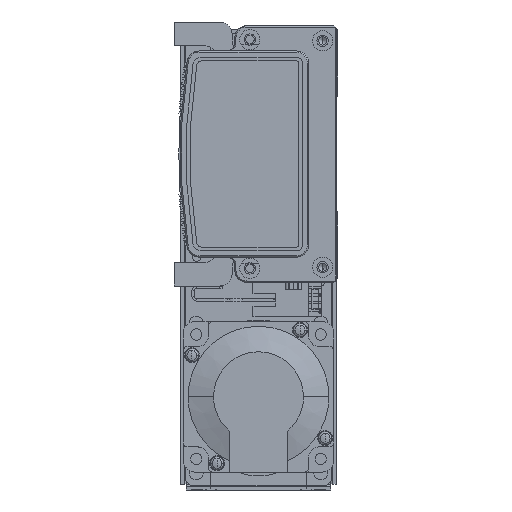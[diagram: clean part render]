
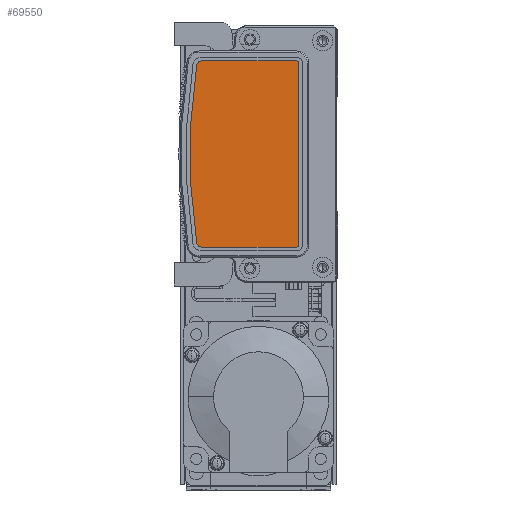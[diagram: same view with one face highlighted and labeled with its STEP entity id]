
A CAD part, left-side view. The second image highlights one B-rep face of the part: STEP entity #69550.
In plain terms, the highlighted planar face has unit normal (-1, 0, 0).
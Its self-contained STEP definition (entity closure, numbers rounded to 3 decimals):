
#120 = CARTESIAN_POINT ( 'NONE',  ( -2., -223.336, 0. ) ) ;
#2007 = CARTESIAN_POINT ( 'NONE',  ( -2., 5.582, -35.305 ) ) ;
#3809 = DIRECTION ( 'NONE',  ( 0., 0., 1. ) ) ;
#4285 = CARTESIAN_POINT ( 'NONE',  ( -2., -34., 36. ) ) ;
#4717 = ORIENTED_EDGE ( 'NONE', *, *, #57705, .T. ) ;
#5496 = VERTEX_POINT ( 'NONE', #39157 ) ;
#6771 = CARTESIAN_POINT ( 'NONE',  ( -2., 3.606, -35. ) ) ;
#6954 = DIRECTION ( 'NONE',  ( 0., 0., 1. ) ) ;
#9237 = CARTESIAN_POINT ( 'NONE',  ( -2., 7.208, 40.169 ) ) ;
#10556 = VERTEX_POINT ( 'NONE', #22796 ) ;
#10746 = ORIENTED_EDGE ( 'NONE', *, *, #60541, .T. ) ;
#12138 = CARTESIAN_POINT ( 'NONE',  ( -2., -34., -36. ) ) ;
#12887 = DIRECTION ( 'NONE',  ( 0., 0., 1. ) ) ;
#14276 = LINE ( 'NONE', #21143, #26101 ) ;
#15487 = ORIENTED_EDGE ( 'NONE', *, *, #69234, .T. ) ;
#15549 = AXIS2_PLACEMENT_3D ( 'NONE', #6771, #23441, #12887 ) ;
#15650 = EDGE_CURVE ( 'NONE', #46928, #5496, #14276, .T. ) ;
#17050 = EDGE_CURVE ( 'NONE', #23165, #43297, #24268, .T. ) ;
#17284 = CARTESIAN_POINT ( 'NONE',  ( -2., -34., 37. ) ) ;
#17368 = EDGE_LOOP ( 'NONE', ( #4717, #10746, #31297, #33693, #17749, #32963, #15487, #36536 ) ) ;
#17749 = ORIENTED_EDGE ( 'NONE', *, *, #15650, .T. ) ;
#18867 = EDGE_CURVE ( 'NONE', #43297, #46928, #51712, .T. ) ;
#19122 = PLANE ( 'NONE',  #67650 ) ;
#21143 = CARTESIAN_POINT ( 'NONE',  ( -2., 3.606, -37. ) ) ;
#21976 = LINE ( 'NONE', #17284, #34550 ) ;
#22796 = CARTESIAN_POINT ( 'NONE',  ( -2., -34., 37. ) ) ;
#23165 = VERTEX_POINT ( 'NONE', #53880 ) ;
#23441 = DIRECTION ( 'NONE',  ( -1., 0., 0. ) ) ;
#23604 = DIRECTION ( 'NONE',  ( 0., 1., 0. ) ) ;
#24268 = CIRCLE ( 'NONE', #39294, 231.624 ) ;
#24820 = VERTEX_POINT ( 'NONE', #25352 ) ;
#25352 = CARTESIAN_POINT ( 'NONE',  ( -2., -35., -36. ) ) ;
#26101 = VECTOR ( 'NONE', #37293, 1000. ) ;
#26103 = DIRECTION ( 'NONE',  ( -1., 0., 0. ) ) ;
#27229 = CARTESIAN_POINT ( 'NONE',  ( -2., -35., 36. ) ) ;
#28338 = DIRECTION ( 'NONE',  ( -1., 0., 0. ) ) ;
#28625 = EDGE_CURVE ( 'NONE', #5496, #24820, #62949, .T. ) ;
#31297 = ORIENTED_EDGE ( 'NONE', *, *, #17050, .T. ) ;
#32963 = ORIENTED_EDGE ( 'NONE', *, *, #28625, .T. ) ;
#33422 = DIRECTION ( 'NONE',  ( 0., 0., 1. ) ) ;
#33693 = ORIENTED_EDGE ( 'NONE', *, *, #18867, .T. ) ;
#34550 = VECTOR ( 'NONE', #23604, 1000. ) ;
#36536 = ORIENTED_EDGE ( 'NONE', *, *, #43462, .T. ) ;
#37293 = DIRECTION ( 'NONE',  ( 0., -1., 0. ) ) ;
#38891 = AXIS2_PLACEMENT_3D ( 'NONE', #4285, #52847, #42097 ) ;
#39157 = CARTESIAN_POINT ( 'NONE',  ( -2., -34., -37. ) ) ;
#39294 = AXIS2_PLACEMENT_3D ( 'NONE', #120, #42336, #53305 ) ;
#39613 = VERTEX_POINT ( 'NONE', #47716 ) ;
#40722 = DIRECTION ( 'NONE',  ( -1., 0., 0. ) ) ;
#42097 = DIRECTION ( 'NONE',  ( 0., 0., 1. ) ) ;
#42336 = DIRECTION ( 'NONE',  ( -1., 0., 0. ) ) ;
#43297 = VERTEX_POINT ( 'NONE', #2007 ) ;
#43462 = EDGE_CURVE ( 'NONE', #67764, #10556, #67956, .T. ) ;
#43852 = LINE ( 'NONE', #65548, #56385 ) ;
#46928 = VERTEX_POINT ( 'NONE', #47910 ) ;
#47167 = CARTESIAN_POINT ( 'NONE',  ( -2., 3.606, 35. ) ) ;
#47716 = CARTESIAN_POINT ( 'NONE',  ( -2., 3.606, 37. ) ) ;
#47910 = CARTESIAN_POINT ( 'NONE',  ( -2., 3.606, -37. ) ) ;
#48855 = AXIS2_PLACEMENT_3D ( 'NONE', #47167, #26103, #68504 ) ;
#49692 = FACE_OUTER_BOUND ( 'NONE', #17368, .T. ) ;
#51712 = CIRCLE ( 'NONE', #15549, 2. ) ;
#52847 = DIRECTION ( 'NONE',  ( -1., 0., 0. ) ) ;
#53305 = DIRECTION ( 'NONE',  ( 0., 0., 1. ) ) ;
#53880 = CARTESIAN_POINT ( 'NONE',  ( -2., 5.582, 35.305 ) ) ;
#56385 = VECTOR ( 'NONE', #33422, 1000. ) ;
#57705 = EDGE_CURVE ( 'NONE', #10556, #39613, #21976, .T. ) ;
#60541 = EDGE_CURVE ( 'NONE', #39613, #23165, #62802, .T. ) ;
#62802 = CIRCLE ( 'NONE', #48855, 2. ) ;
#62949 = CIRCLE ( 'NONE', #64943, 1. ) ;
#64943 = AXIS2_PLACEMENT_3D ( 'NONE', #12138, #28338, #6954 ) ;
#65548 = CARTESIAN_POINT ( 'NONE',  ( -2., -35., -36. ) ) ;
#67650 = AXIS2_PLACEMENT_3D ( 'NONE', #9237, #40722, #3809 ) ;
#67764 = VERTEX_POINT ( 'NONE', #27229 ) ;
#67956 = CIRCLE ( 'NONE', #38891, 1. ) ;
#68504 = DIRECTION ( 'NONE',  ( 0., 0., 1. ) ) ;
#69234 = EDGE_CURVE ( 'NONE', #24820, #67764, #43852, .T. ) ;
#69550 = ADVANCED_FACE ( 'NONE', ( #49692 ), #19122, .T. ) ;
